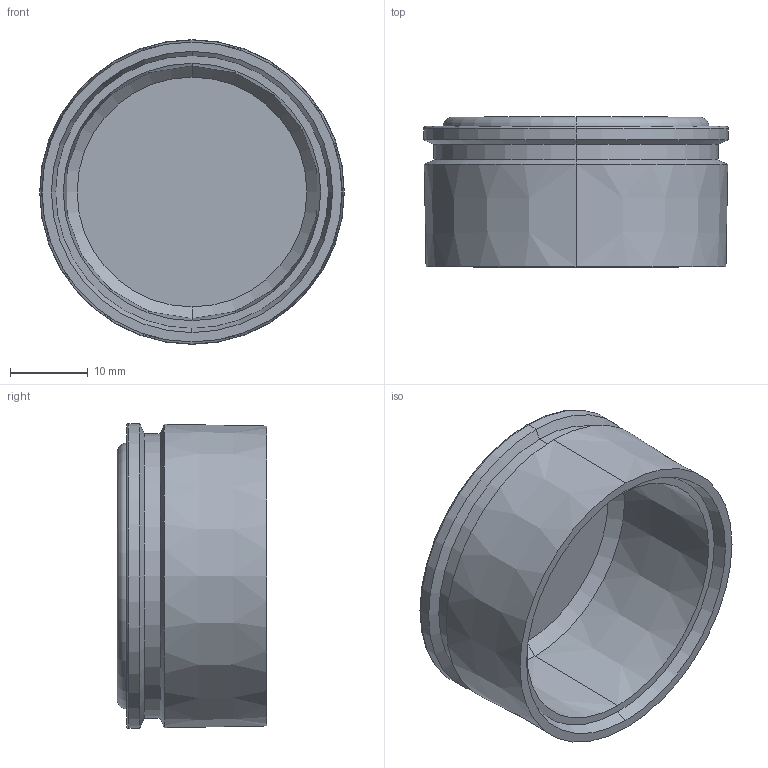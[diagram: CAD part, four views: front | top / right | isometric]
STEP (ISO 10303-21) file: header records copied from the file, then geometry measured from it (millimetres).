
FILE_DESCRIPTION (( 'STEP AP203' ), '1' );
FILE_NAME ('plc-pg-36-00.00.004 Óïëîòíèòåëü (PG36) #sealant (PG36)#.STEP', '2024-04-24T10:25:04', ( '' ), ( '' ), 'SwSTEP 2.0', 'SolidWorks 2021', '' );
FILE_SCHEMA (( 'CONFIG_CONTROL_DESIGN' ));
Length unit declared in the file: millimetre
Products named in the file (1): plc-pg-36-00.00.004 Óïëîòíèòåëü (PG36) #sealant (PG36)#
Bounding box: 39.09 x 19.2 x 39.09 mm (x, y, z)
Volume: 6700.4 mm3; surface area: 6475 mm2
Topology: 1 solids, 1 shells, 25 faces, 48 edges, 28 vertices
Faces by surface type: cone 14, plane 5, torus 4, cylinder 2
Entity records: 715 total; most frequent: DIRECTION 132, CARTESIAN_POINT 102, ORIENTED_EDGE 96, AXIS2_PLACEMENT_3D 58, EDGE_CURVE 48, CIRCLE 32, VERTEX_POINT 28, EDGE_LOOP 28
